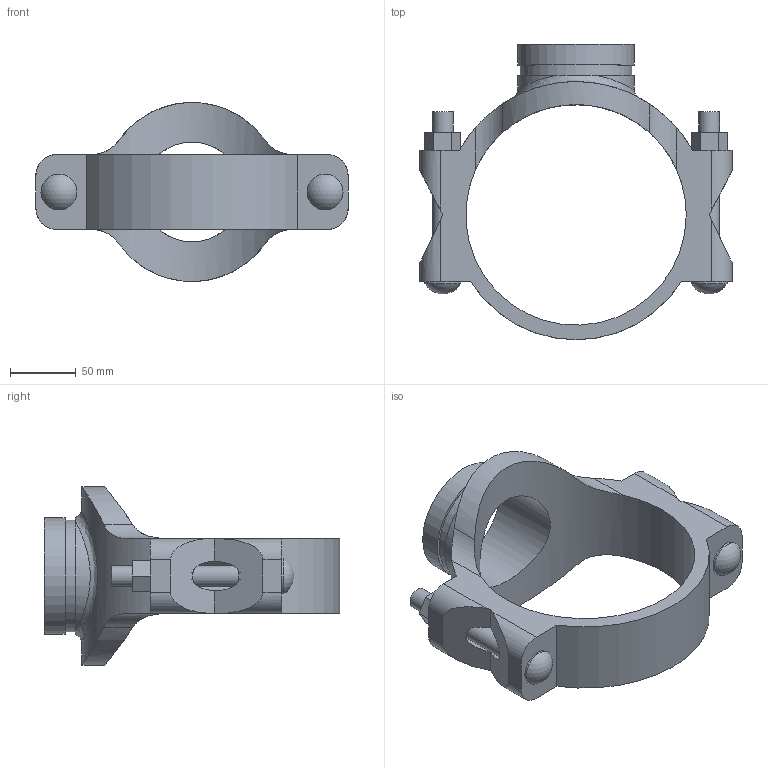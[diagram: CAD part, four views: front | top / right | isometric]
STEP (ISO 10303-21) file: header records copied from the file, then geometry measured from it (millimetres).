
FILE_DESCRIPTION(/* description */ ('VIC SS MECHANICAL T BRANCH OUTLET STYLE 422 (OGS)','CAx-IF Rec.Pracs.---Representation and Presentation of Product Manufacturing Information (PMI)---4.0---2014-10-13'),/* implementation_level */ '2;1');
FILE_NAME(/* name */ 'C:\Files for Export\422\STEP\Victaulic_SS-OGS_Mech-Tee Out_Style 422 (OGS)\Victaulic_SS-OGS_Mech-Tee Out_Style 422 (OGS)_06.0x03.0 (150x80).stp',/* time_stamp */ '2023-03-28T13:59:56+02:00',/* author */ ('jheald'),/* organization */ ('Victaulic'),/* preprocessor_version */ 'ST-DEVELOPER v18.1',/* originating_system */ 'Autodesk Inventor 2020',/* authorisation */ '');
FILE_SCHEMA (('AP242_MANAGED_MODEL_BASED_3D_ENGINEERING_MIM_LF { 1 0 10303 442 1 1 4 }'));
Length unit declared in the file: inch
Products named in the file (1): 422-06.0x03.0
Bounding box: 238.25 x 225.55 x 136.62 mm (x, y, z)
Volume: 789030.8 mm3; surface area: 150135.2 mm2
Topology: 1 solids, 1 shells, 80 faces, 227 edges, 156 vertices
Faces by surface type: plane 43, cylinder 34, sphere 2, bspline 1
Full cylindrical faces by diameter (mm): 15.875 x4, 27.381 x2, 76.2 x1, 84.938 x1, 88.9 x1, 168.275 x1
Entity records: 3335 total; most frequent: CARTESIAN_POINT 986, DIRECTION 468, ORIENTED_EDGE 454, EDGE_CURVE 227, AXIS2_PLACEMENT_3D 170, VERTEX_POINT 156, LINE 128, VECTOR 128
